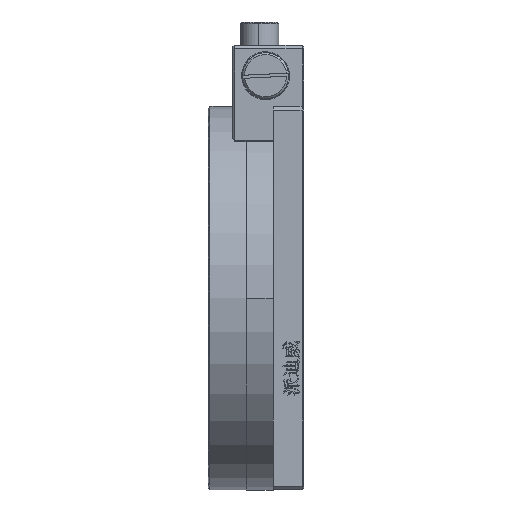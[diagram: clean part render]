
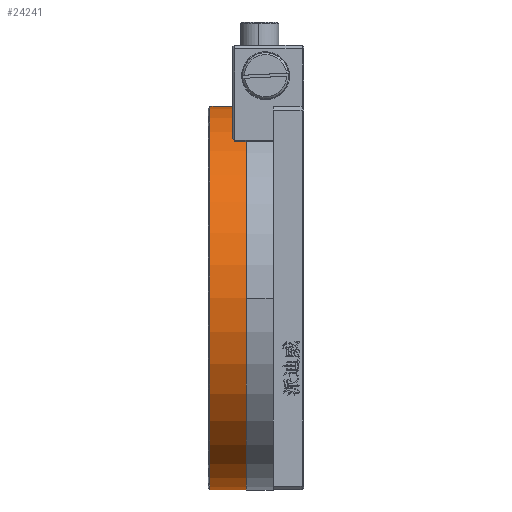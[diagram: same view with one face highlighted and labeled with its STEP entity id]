
A CAD part, left-side view. The second image highlights one B-rep face of the part: STEP entity #24241.
In plain terms, the highlighted cylindrical face has radius 50 mm (diameter 100 mm), a partial arc.
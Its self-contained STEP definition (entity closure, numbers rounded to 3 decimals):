
#663 = CIRCLE ( 'NONE', #7047, 50. ) ;
#1743 = DIRECTION ( 'NONE',  ( 0., 1., 0. ) ) ;
#1905 = VECTOR ( 'NONE', #25785, 1000. ) ;
#1919 = AXIS2_PLACEMENT_3D ( 'NONE', #11770, #26695, #20377 ) ;
#2294 = VECTOR ( 'NONE', #24877, 1000. ) ;
#2927 = EDGE_CURVE ( 'NONE', #27120, #6894, #21891, .T. ) ;
#3073 = ORIENTED_EDGE ( 'NONE', *, *, #9237, .F. ) ;
#3907 = CYLINDRICAL_SURFACE ( 'NONE', #1919, 50. ) ;
#4763 = EDGE_CURVE ( 'NONE', #6894, #17207, #21046, .T. ) ;
#5709 = ORIENTED_EDGE ( 'NONE', *, *, #16604, .F. ) ;
#6894 = VERTEX_POINT ( 'NONE', #15020 ) ;
#7047 = AXIS2_PLACEMENT_3D ( 'NONE', #27628, #8162, #14824 ) ;
#8162 = DIRECTION ( 'NONE',  ( 0., 1., 0. ) ) ;
#9237 = EDGE_CURVE ( 'NONE', #27120, #21967, #16304, .T. ) ;
#10344 = DIRECTION ( 'NONE',  ( 0., 0., 1. ) ) ;
#10835 = CARTESIAN_POINT ( 'NONE',  ( -41.872, 78.946, 21.068 ) ) ;
#11396 = ORIENTED_EDGE ( 'NONE', *, *, #4763, .T. ) ;
#11770 = CARTESIAN_POINT ( 'NONE',  ( -41.872, 69.446, 71.068 ) ) ;
#14674 = ORIENTED_EDGE ( 'NONE', *, *, #2927, .T. ) ;
#14824 = DIRECTION ( 'NONE',  ( 0., 0., -1. ) ) ;
#15020 = CARTESIAN_POINT ( 'NONE',  ( -41.872, 69.446, 121.068 ) ) ;
#15061 = CARTESIAN_POINT ( 'NONE',  ( -41.872, 78.946, 121.068 ) ) ;
#16304 = LINE ( 'NONE', #16939, #1905 ) ;
#16604 = EDGE_CURVE ( 'NONE', #21967, #17207, #663, .T. ) ;
#16939 = CARTESIAN_POINT ( 'NONE',  ( -41.872, 69.446, 21.068 ) ) ;
#17207 = VERTEX_POINT ( 'NONE', #15061 ) ;
#20377 = DIRECTION ( 'NONE',  ( 0., 0., 1. ) ) ;
#20737 = CARTESIAN_POINT ( 'NONE',  ( -41.872, 69.446, 71.068 ) ) ;
#21046 = LINE ( 'NONE', #22580, #2294 ) ;
#21876 = EDGE_LOOP ( 'NONE', ( #3073, #14674, #11396, #5709 ) ) ;
#21891 = CIRCLE ( 'NONE', #26993, 50. ) ;
#21967 = VERTEX_POINT ( 'NONE', #10835 ) ;
#22580 = CARTESIAN_POINT ( 'NONE',  ( -41.872, 69.446, 121.068 ) ) ;
#24241 = ADVANCED_FACE ( 'NONE', ( #24646 ), #3907, .T. ) ;
#24646 = FACE_OUTER_BOUND ( 'NONE', #21876, .T. ) ;
#24877 = DIRECTION ( 'NONE',  ( 0., 1., 0. ) ) ;
#25785 = DIRECTION ( 'NONE',  ( 0., 1., 0. ) ) ;
#26290 = CARTESIAN_POINT ( 'NONE',  ( -41.872, 69.446, 21.068 ) ) ;
#26695 = DIRECTION ( 'NONE',  ( 0., 1., 0. ) ) ;
#26993 = AXIS2_PLACEMENT_3D ( 'NONE', #20737, #1743, #10344 ) ;
#27120 = VERTEX_POINT ( 'NONE', #26290 ) ;
#27628 = CARTESIAN_POINT ( 'NONE',  ( -41.872, 78.946, 71.068 ) ) ;
